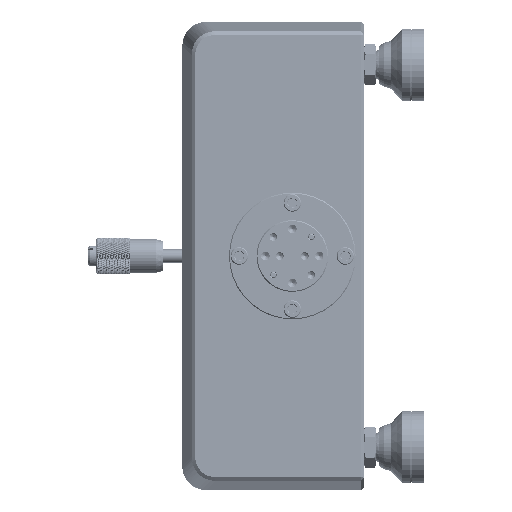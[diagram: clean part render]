
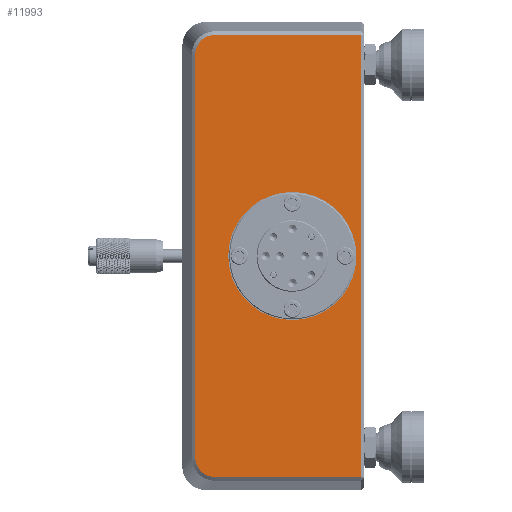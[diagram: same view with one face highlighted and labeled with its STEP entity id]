
A CAD part, left-side view. The second image highlights one B-rep face of the part: STEP entity #11993.
In plain terms, the highlighted planar face has unit normal (-1, 0, 0).
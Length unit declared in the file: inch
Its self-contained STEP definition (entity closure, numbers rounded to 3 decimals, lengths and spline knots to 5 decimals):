
#10318 = PLANE ( 'NONE',  #709305 ) ;
#11993 = ADVANCED_FACE ( 'NONE', ( #367491, #724536 ), #10318, .F. ) ;
#26460 = CARTESIAN_POINT ( 'NONE',  ( -3.68787, 1.19617, 4.14181 ) ) ;
#43466 = CARTESIAN_POINT ( 'NONE',  ( -3.68787, 0.36253, 1.82949 ) ) ;
#50318 = EDGE_CURVE ( 'NONE', #160726, #705823, #546431, .T. ) ;
#89265 = CARTESIAN_POINT ( 'NONE',  ( -3.68787, 1.22367, 4.13638 ) ) ;
#89484 = CARTESIAN_POINT ( 'NONE',  ( -3.68787, 1.35138, -0.37938 ) ) ;
#93124 = CARTESIAN_POINT ( 'NONE',  ( -3.68787, 1.29738, 4.10009 ) ) ;
#103637 = ORIENTED_EDGE ( 'NONE', *, *, #716808, .T. ) ;
#109606 = LINE ( 'NONE', #160623, #252228 ) ;
#111006 = CIRCLE ( 'NONE', #624536, 0.67 ) ;
#113597 = ORIENTED_EDGE ( 'NONE', *, *, #271895, .T. ) ;
#125953 = VECTOR ( 'NONE', #435557, 39.37008 ) ;
#132291 = ORIENTED_EDGE ( 'NONE', *, *, #391640, .T. ) ;
#133428 = CARTESIAN_POINT ( 'NONE',  ( -3.68787, -0.35747, 1.82949 ) ) ;
#134778 = CARTESIAN_POINT ( 'NONE',  ( -3.68787, 1.37761, 3.93289 ) ) ;
#135338 = VERTEX_POINT ( 'NONE', #134778 ) ;
#148947 = ORIENTED_EDGE ( 'NONE', *, *, #324174, .F. ) ;
#155813 = CARTESIAN_POINT ( 'NONE',  ( -3.68787, 1.16869, 4.14181 ) ) ;
#160623 = CARTESIAN_POINT ( 'NONE',  ( -3.68787, 1.37761, 1.82949 ) ) ;
#160726 = VERTEX_POINT ( 'NONE', #755926 ) ;
#189023 = ORIENTED_EDGE ( 'NONE', *, *, #464007, .T. ) ;
#189102 = DIRECTION ( 'NONE',  ( -1., 0., 0. ) ) ;
#206222 = CARTESIAN_POINT ( 'NONE',  ( -3.68787, 0.56253, 1.82949 ) ) ;
#214691 = CARTESIAN_POINT ( 'NONE',  ( -3.68787, 1.33589, 4.06159 ) ) ;
#227265 = DIRECTION ( 'NONE',  ( 0., 0., -1. ) ) ;
#239743 = EDGE_CURVE ( 'NONE', #646223, #160726, #294024, .T. ) ;
#248251 = CARTESIAN_POINT ( 'NONE',  ( -3.68787, 0.56253, -0.48284 ) ) ;
#252228 = VECTOR ( 'NONE', #227265, 39.37008 ) ;
#257087 = EDGE_LOOP ( 'NONE', ( #488236, #148947 ) ) ;
#259508 = B_SPLINE_CURVE_WITH_KNOTS ( 'NONE', 3,
 ( #155813, #26460, #89265, #630597, #93124, #214691, #571726, #265937, #505208, #626720 ),
 .UNSPECIFIED., .F., .F.,
 ( 4, 2, 2, 2, 4 ),
 ( 0., 0.25, 0.5, 0.75, 1. ),
 .UNSPECIFIED. ) ;
#265937 = CARTESIAN_POINT ( 'NONE',  ( -3.68787, 1.37218, 3.98788 ) ) ;
#271895 = EDGE_CURVE ( 'NONE', #705823, #480948, #313909, .T. ) ;
#272404 = CARTESIAN_POINT ( 'NONE',  ( -3.68787, -0.35747, 4.14181 ) ) ;
#290637 = DIRECTION ( 'NONE',  ( 0., 0., 1. ) ) ;
#294024 = B_SPLINE_CURVE_WITH_KNOTS ( 'NONE', 3,
 ( #321176, #387707, #328817, #89484, #678094, #501624, #560399, #626946, #568073, #670366 ),
 .UNSPECIFIED., .F., .F.,
 ( 4, 2, 2, 2, 4 ),
 ( 0., 0.25, 0.5, 0.75, 1. ),
 .UNSPECIFIED. ) ;
#299202 = DIRECTION ( 'NONE',  ( 0., 0., 1. ) ) ;
#313909 = LINE ( 'NONE', #133428, #125953 ) ;
#321176 = CARTESIAN_POINT ( 'NONE',  ( -3.68787, 1.37761, -0.27392 ) ) ;
#324174 = EDGE_CURVE ( 'NONE', #385165, #345198, #658145, .T. ) ;
#324482 = VECTOR ( 'NONE', #730853, 39.37008 ) ;
#328817 = CARTESIAN_POINT ( 'NONE',  ( -3.68787, 1.37217, -0.3289 ) ) ;
#345198 = VERTEX_POINT ( 'NONE', #364637 ) ;
#346218 = CARTESIAN_POINT ( 'NONE',  ( -3.68787, 0.36253, 1.15949 ) ) ;
#355591 = EDGE_CURVE ( 'NONE', #345198, #385165, #111006, .T. ) ;
#364637 = CARTESIAN_POINT ( 'NONE',  ( -3.68787, 0.36253, 2.49949 ) ) ;
#367491 = FACE_OUTER_BOUND ( 'NONE', #529341, .T. ) ;
#380136 = VECTOR ( 'NONE', #695512, 39.37008 ) ;
#385165 = VERTEX_POINT ( 'NONE', #346218 ) ;
#387707 = CARTESIAN_POINT ( 'NONE',  ( -3.68787, 1.37761, -0.3014 ) ) ;
#391640 = EDGE_CURVE ( 'NONE', #135338, #646223, #109606, .T. ) ;
#407932 = AXIS2_PLACEMENT_3D ( 'NONE', #43466, #643673, #290637 ) ;
#416954 = CARTESIAN_POINT ( 'NONE',  ( -3.68787, 0.36253, 1.82949 ) ) ;
#435557 = DIRECTION ( 'NONE',  ( 0., 0., 1. ) ) ;
#439843 = CARTESIAN_POINT ( 'NONE',  ( -3.68787, 1.16869, 4.14181 ) ) ;
#456284 = LINE ( 'NONE', #463975, #380136 ) ;
#463893 = ORIENTED_EDGE ( 'NONE', *, *, #239743, .T. ) ;
#463975 = CARTESIAN_POINT ( 'NONE',  ( -3.68787, 0.56253, 4.14181 ) ) ;
#464007 = EDGE_CURVE ( 'NONE', #692099, #135338, #259508, .T. ) ;
#480948 = VERTEX_POINT ( 'NONE', #272404 ) ;
#488236 = ORIENTED_EDGE ( 'NONE', *, *, #355591, .F. ) ;
#501624 = CARTESIAN_POINT ( 'NONE',  ( -3.68787, 1.29739, -0.44112 ) ) ;
#505208 = CARTESIAN_POINT ( 'NONE',  ( -3.68787, 1.37761, 3.96043 ) ) ;
#508304 = DIRECTION ( 'NONE',  ( 1., 0., 0. ) ) ;
#529341 = EDGE_LOOP ( 'NONE', ( #463893, #545185, #113597, #103637, #189023, #132291 ) ) ;
#545185 = ORIENTED_EDGE ( 'NONE', *, *, #50318, .T. ) ;
#546431 = LINE ( 'NONE', #248251, #324482 ) ;
#560399 = CARTESIAN_POINT ( 'NONE',  ( -3.68787, 1.27415, -0.4566 ) ) ;
#568073 = CARTESIAN_POINT ( 'NONE',  ( -3.68787, 1.19623, -0.48284 ) ) ;
#571726 = CARTESIAN_POINT ( 'NONE',  ( -3.68787, 1.35137, 4.03835 ) ) ;
#576513 = CARTESIAN_POINT ( 'NONE',  ( -3.68787, -0.35747, -0.48284 ) ) ;
#618294 = DIRECTION ( 'NONE',  ( 0., 0., -1. ) ) ;
#624536 = AXIS2_PLACEMENT_3D ( 'NONE', #416954, #189102, #299202 ) ;
#626720 = CARTESIAN_POINT ( 'NONE',  ( -3.68787, 1.37761, 3.93289 ) ) ;
#626946 = CARTESIAN_POINT ( 'NONE',  ( -3.68787, 1.22368, -0.47741 ) ) ;
#630597 = CARTESIAN_POINT ( 'NONE',  ( -3.68787, 1.27415, 4.11558 ) ) ;
#643673 = DIRECTION ( 'NONE',  ( -1., 0., 0. ) ) ;
#646223 = VERTEX_POINT ( 'NONE', #686722 ) ;
#658145 = CIRCLE ( 'NONE', #407932, 0.67 ) ;
#670366 = CARTESIAN_POINT ( 'NONE',  ( -3.68787, 1.16869, -0.48284 ) ) ;
#678094 = CARTESIAN_POINT ( 'NONE',  ( -3.68787, 1.33589, -0.40261 ) ) ;
#686722 = CARTESIAN_POINT ( 'NONE',  ( -3.68787, 1.37761, -0.27392 ) ) ;
#692099 = VERTEX_POINT ( 'NONE', #439843 ) ;
#695512 = DIRECTION ( 'NONE',  ( 0., 1., 0. ) ) ;
#705823 = VERTEX_POINT ( 'NONE', #576513 ) ;
#709305 = AXIS2_PLACEMENT_3D ( 'NONE', #206222, #508304, #618294 ) ;
#716808 = EDGE_CURVE ( 'NONE', #480948, #692099, #456284, .T. ) ;
#724536 = FACE_BOUND ( 'NONE', #257087, .T. ) ;
#730853 = DIRECTION ( 'NONE',  ( 0., -1., 0. ) ) ;
#755926 = CARTESIAN_POINT ( 'NONE',  ( -3.68787, 1.16869, -0.48284 ) ) ;
